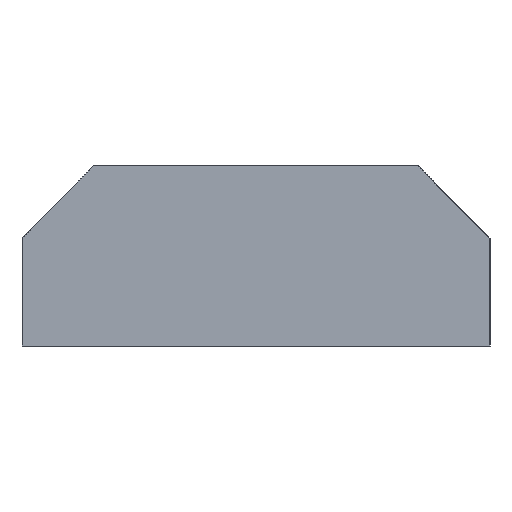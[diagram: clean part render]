
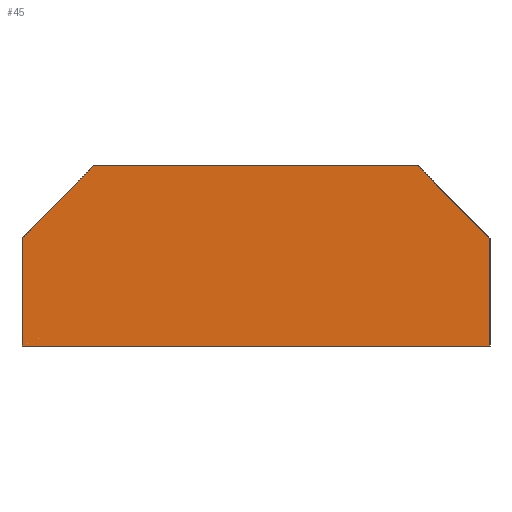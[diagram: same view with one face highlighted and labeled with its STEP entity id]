
A CAD part, left-side view. The second image highlights one B-rep face of the part: STEP entity #45.
In plain terms, the highlighted planar face has unit normal (-1, 0, 0).
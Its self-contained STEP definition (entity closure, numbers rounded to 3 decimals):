
#8 = CARTESIAN_POINT ( 'NONE',  ( -12.5, -6.5, 5. ) ) ;
#9 = PLANE ( 'NONE',  #205 ) ;
#10 = DIRECTION ( 'NONE',  ( 0., 0.707, 0.707 ) ) ;
#12 = EDGE_CURVE ( 'NONE', #147, #229, #46, .T. ) ;
#23 = VECTOR ( 'NONE', #157, 1000. ) ;
#25 = LINE ( 'NONE', #163, #213 ) ;
#28 = VECTOR ( 'NONE', #70, 1000. ) ;
#30 = DIRECTION ( 'NONE',  ( 0., 0., -1. ) ) ;
#45 = ADVANCED_FACE ( 'NONE', ( #57 ), #9, .F. ) ;
#46 = LINE ( 'NONE', #130, #23 ) ;
#49 = CARTESIAN_POINT ( 'NONE',  ( -12.5, 6.5, 0. ) ) ;
#52 = CARTESIAN_POINT ( 'NONE',  ( -12.5, -6.5, 5. ) ) ;
#57 = FACE_OUTER_BOUND ( 'NONE', #68, .T. ) ;
#68 = EDGE_LOOP ( 'NONE', ( #271, #125, #277, #313, #315, #193 ) ) ;
#70 = DIRECTION ( 'NONE',  ( 0., -1., 0. ) ) ;
#76 = LINE ( 'NONE', #52, #150 ) ;
#90 = EDGE_CURVE ( 'NONE', #197, #175, #25, .T. ) ;
#102 = DIRECTION ( 'NONE',  ( 1., 0., 0. ) ) ;
#125 = ORIENTED_EDGE ( 'NONE', *, *, #206, .T. ) ;
#130 = CARTESIAN_POINT ( 'NONE',  ( -12.5, 4.5, 5. ) ) ;
#140 = CARTESIAN_POINT ( 'NONE',  ( -12.5, 6.5, 3. ) ) ;
#147 = VERTEX_POINT ( 'NONE', #290 ) ;
#150 = VECTOR ( 'NONE', #272, 1000. ) ;
#157 = DIRECTION ( 'NONE',  ( 0., 0.707, -0.707 ) ) ;
#159 = CARTESIAN_POINT ( 'NONE',  ( -12.5, -6.5, 0. ) ) ;
#163 = CARTESIAN_POINT ( 'NONE',  ( -12.5, -6.5, 5. ) ) ;
#175 = VERTEX_POINT ( 'NONE', #159 ) ;
#186 = CARTESIAN_POINT ( 'NONE',  ( -12.5, -6.5, 3. ) ) ;
#193 = ORIENTED_EDGE ( 'NONE', *, *, #306, .T. ) ;
#195 = CARTESIAN_POINT ( 'NONE',  ( -12.5, -4.5, 5. ) ) ;
#197 = VERTEX_POINT ( 'NONE', #186 ) ;
#205 = AXIS2_PLACEMENT_3D ( 'NONE', #8, #102, #30 ) ;
#206 = EDGE_CURVE ( 'NONE', #197, #288, #208, .T. ) ;
#208 = LINE ( 'NONE', #281, #254 ) ;
#213 = VECTOR ( 'NONE', #256, 1000. ) ;
#227 = VECTOR ( 'NONE', #263, 1000. ) ;
#229 = VERTEX_POINT ( 'NONE', #140 ) ;
#235 = EDGE_CURVE ( 'NONE', #229, #252, #238, .T. ) ;
#238 = LINE ( 'NONE', #311, #227 ) ;
#252 = VERTEX_POINT ( 'NONE', #49 ) ;
#254 = VECTOR ( 'NONE', #10, 1000. ) ;
#256 = DIRECTION ( 'NONE',  ( 0., 0., -1. ) ) ;
#263 = DIRECTION ( 'NONE',  ( 0., 0., -1. ) ) ;
#271 = ORIENTED_EDGE ( 'NONE', *, *, #90, .F. ) ;
#272 = DIRECTION ( 'NONE',  ( 0., -1., 0. ) ) ;
#274 = CARTESIAN_POINT ( 'NONE',  ( -12.5, -6.5, 0. ) ) ;
#277 = ORIENTED_EDGE ( 'NONE', *, *, #283, .F. ) ;
#281 = CARTESIAN_POINT ( 'NONE',  ( -12.5, -4.5, 5. ) ) ;
#283 = EDGE_CURVE ( 'NONE', #147, #288, #76, .T. ) ;
#288 = VERTEX_POINT ( 'NONE', #195 ) ;
#290 = CARTESIAN_POINT ( 'NONE',  ( -12.5, 4.5, 5. ) ) ;
#299 = LINE ( 'NONE', #274, #28 ) ;
#306 = EDGE_CURVE ( 'NONE', #252, #175, #299, .T. ) ;
#311 = CARTESIAN_POINT ( 'NONE',  ( -12.5, 6.5, 5. ) ) ;
#313 = ORIENTED_EDGE ( 'NONE', *, *, #12, .T. ) ;
#315 = ORIENTED_EDGE ( 'NONE', *, *, #235, .T. ) ;
